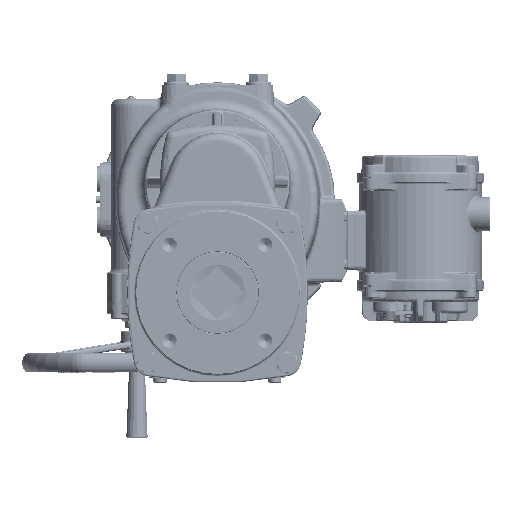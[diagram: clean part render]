
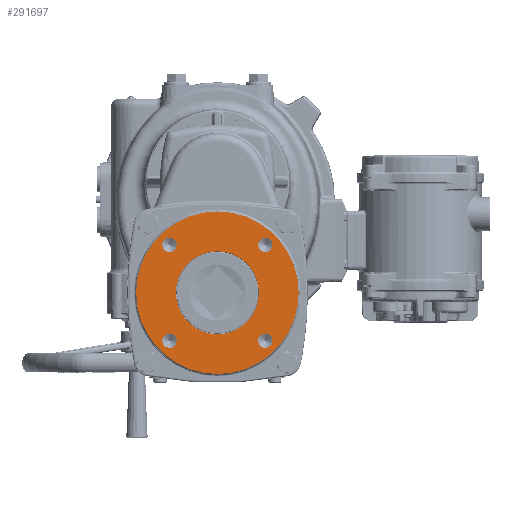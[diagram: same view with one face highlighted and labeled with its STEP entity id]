
A CAD part, front view. The second image highlights one B-rep face of the part: STEP entity #291697.
In plain terms, the highlighted planar face has unit normal (0, -1, 0).
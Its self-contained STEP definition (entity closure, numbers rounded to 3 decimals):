
#1913 = CIRCLE ( 'NONE', #381084, 50.5 ) ;
#2322 = EDGE_CURVE ( 'NONE', #156923, #248317, #85179, .T. ) ;
#3795 = CARTESIAN_POINT ( 'NONE',  ( 50.5, -391., -113.5 ) ) ;
#10185 = CIRCLE ( 'NONE', #279375, 8.75 ) ;
#12258 = EDGE_LOOP ( 'NONE', ( #154487, #174067 ) ) ;
#12925 = DIRECTION ( 'NONE',  ( 0., -1., 0. ) ) ;
#13123 = CARTESIAN_POINT ( 'NONE',  ( -58.336, -391., -55.164 ) ) ;
#13472 = DIRECTION ( 'NONE',  ( 0., -1., 0. ) ) ;
#25100 = EDGE_CURVE ( 'NONE', #236612, #114414, #1913, .T. ) ;
#32908 = EDGE_CURVE ( 'NONE', #321538, #335412, #230259, .T. ) ;
#35435 = CARTESIAN_POINT ( 'NONE',  ( -49.586, -391., -55.164 ) ) ;
#36414 = CIRCLE ( 'NONE', #260318, 50.5 ) ;
#43467 = DIRECTION ( 'NONE',  ( -1., 0., 0. ) ) ;
#45093 = ORIENTED_EDGE ( 'NONE', *, *, #95114, .T. ) ;
#53627 = VERTEX_POINT ( 'NONE', #120132 ) ;
#57685 = CARTESIAN_POINT ( 'NONE',  ( 67.086, -391., -171.836 ) ) ;
#58710 = EDGE_CURVE ( 'NONE', #362829, #213425, #275127, .T. ) ;
#76021 = CARTESIAN_POINT ( 'NONE',  ( 0., -391., -113.5 ) ) ;
#76442 = FACE_BOUND ( 'NONE', #149103, .T. ) ;
#77978 = VERTEX_POINT ( 'NONE', #330647 ) ;
#79696 = CARTESIAN_POINT ( 'NONE',  ( 0., -391., -113.5 ) ) ;
#81681 = CARTESIAN_POINT ( 'NONE',  ( -50.5, -391., -113.5 ) ) ;
#85179 = CIRCLE ( 'NONE', #160551, 99. ) ;
#85431 = ORIENTED_EDGE ( 'NONE', *, *, #376499, .F. ) ;
#86334 = EDGE_LOOP ( 'NONE', ( #253863, #207589 ) ) ;
#88490 = EDGE_CURVE ( 'NONE', #335412, #321538, #305899, .T. ) ;
#91333 = ORIENTED_EDGE ( 'NONE', *, *, #2322, .T. ) ;
#91653 = CARTESIAN_POINT ( 'NONE',  ( -58.336, -391., -171.836 ) ) ;
#94897 = DIRECTION ( 'NONE',  ( 0., 1., 0. ) ) ;
#95114 = EDGE_CURVE ( 'NONE', #248317, #156923, #269764, .T. ) ;
#95658 = AXIS2_PLACEMENT_3D ( 'NONE', #170725, #381068, #200992 ) ;
#96428 = ORIENTED_EDGE ( 'NONE', *, *, #25100, .T. ) ;
#106283 = DIRECTION ( 'NONE',  ( 1., 0., 0. ) ) ;
#107506 = CIRCLE ( 'NONE', #95658, 8.75 ) ;
#107553 = ORIENTED_EDGE ( 'NONE', *, *, #317236, .F. ) ;
#109997 = DIRECTION ( 'NONE',  ( 1., 0., 0. ) ) ;
#114414 = VERTEX_POINT ( 'NONE', #3795 ) ;
#120132 = CARTESIAN_POINT ( 'NONE',  ( -67.086, -391., -171.836 ) ) ;
#120929 = CARTESIAN_POINT ( 'NONE',  ( -49.586, -391., -171.836 ) ) ;
#121829 = DIRECTION ( 'NONE',  ( -1., 0., 0. ) ) ;
#132902 = DIRECTION ( 'NONE',  ( 0., -1., 0. ) ) ;
#133487 = DIRECTION ( 'NONE',  ( 0., -1., 0. ) ) ;
#134957 = CARTESIAN_POINT ( 'NONE',  ( 0., -391., -113.5 ) ) ;
#145509 = DIRECTION ( 'NONE',  ( 0., -1., 0. ) ) ;
#149103 = EDGE_LOOP ( 'NONE', ( #85431, #169443 ) ) ;
#152673 = CIRCLE ( 'NONE', #203650, 8.75 ) ;
#154487 = ORIENTED_EDGE ( 'NONE', *, *, #88490, .F. ) ;
#154593 = CARTESIAN_POINT ( 'NONE',  ( -58.336, -391., -55.164 ) ) ;
#156529 = FACE_BOUND ( 'NONE', #86334, .T. ) ;
#156923 = VERTEX_POINT ( 'NONE', #211791 ) ;
#160551 = AXIS2_PLACEMENT_3D ( 'NONE', #134957, #345490, #165357 ) ;
#163101 = CARTESIAN_POINT ( 'NONE',  ( 67.086, -391., -55.164 ) ) ;
#165357 = DIRECTION ( 'NONE',  ( 1., 0., 0. ) ) ;
#166202 = EDGE_LOOP ( 'NONE', ( #96428, #307472 ) ) ;
#169443 = ORIENTED_EDGE ( 'NONE', *, *, #58710, .F. ) ;
#170725 = CARTESIAN_POINT ( 'NONE',  ( 58.336, -391., -55.164 ) ) ;
#174067 = ORIENTED_EDGE ( 'NONE', *, *, #32908, .F. ) ;
#178479 = ORIENTED_EDGE ( 'NONE', *, *, #371335, .F. ) ;
#184933 = DIRECTION ( 'NONE',  ( -1., 0., 0. ) ) ;
#185315 = AXIS2_PLACEMENT_3D ( 'NONE', #194107, #13472, #224411 ) ;
#193550 = CARTESIAN_POINT ( 'NONE',  ( 0., -391., -113.5 ) ) ;
#194107 = CARTESIAN_POINT ( 'NONE',  ( -58.336, -391., -171.836 ) ) ;
#196053 = AXIS2_PLACEMENT_3D ( 'NONE', #313118, #132902, #343397 ) ;
#200992 = DIRECTION ( 'NONE',  ( -1., 0., 0. ) ) ;
#203650 = AXIS2_PLACEMENT_3D ( 'NONE', #313727, #133487, #343985 ) ;
#207589 = ORIENTED_EDGE ( 'NONE', *, *, #330779, .F. ) ;
#211791 = CARTESIAN_POINT ( 'NONE',  ( -99., -391., -113.5 ) ) ;
#213425 = VERTEX_POINT ( 'NONE', #290124 ) ;
#223838 = DIRECTION ( 'NONE',  ( 1., 0., 0. ) ) ;
#224037 = DIRECTION ( 'NONE',  ( 0., -1., 0. ) ) ;
#224287 = VERTEX_POINT ( 'NONE', #163101 ) ;
#224411 = DIRECTION ( 'NONE',  ( -1., 0., 0. ) ) ;
#230259 = CIRCLE ( 'NONE', #361097, 8.75 ) ;
#236612 = VERTEX_POINT ( 'NONE', #81681 ) ;
#236702 = FACE_BOUND ( 'NONE', #12258, .T. ) ;
#245688 = AXIS2_PLACEMENT_3D ( 'NONE', #275183, #94897, #305333 ) ;
#248317 = VERTEX_POINT ( 'NONE', #257756 ) ;
#253863 = ORIENTED_EDGE ( 'NONE', *, *, #332686, .F. ) ;
#257756 = CARTESIAN_POINT ( 'NONE',  ( 99., -391., -113.5 ) ) ;
#260318 = AXIS2_PLACEMENT_3D ( 'NONE', #79696, #290287, #109997 ) ;
#266625 = EDGE_CURVE ( 'NONE', #114414, #236612, #36414, .T. ) ;
#269764 = CIRCLE ( 'NONE', #364880, 99. ) ;
#274252 = VERTEX_POINT ( 'NONE', #120929 ) ;
#275127 = CIRCLE ( 'NONE', #196053, 8.75 ) ;
#275183 = CARTESIAN_POINT ( 'NONE',  ( 0., -391., -163.5 ) ) ;
#279375 = AXIS2_PLACEMENT_3D ( 'NONE', #91653, #302108, #121829 ) ;
#283500 = CIRCLE ( 'NONE', #389119, 8.75 ) ;
#286562 = DIRECTION ( 'NONE',  ( 0., 1., 0. ) ) ;
#290124 = CARTESIAN_POINT ( 'NONE',  ( 49.586, -391., -171.836 ) ) ;
#290287 = DIRECTION ( 'NONE',  ( 0., 1., 0. ) ) ;
#291697 = ADVANCED_FACE ( 'NONE', ( #316495, #76442, #156529, #236702, #387214, #307086 ), #362055, .F. ) ;
#294271 = CIRCLE ( 'NONE', #185315, 8.75 ) ;
#302108 = DIRECTION ( 'NONE',  ( 0., -1., 0. ) ) ;
#305333 = DIRECTION ( 'NONE',  ( 1., 0., 0. ) ) ;
#305899 = CIRCLE ( 'NONE', #366250, 8.75 ) ;
#307086 = FACE_OUTER_BOUND ( 'NONE', #359657, .T. ) ;
#307472 = ORIENTED_EDGE ( 'NONE', *, *, #266625, .T. ) ;
#313118 = CARTESIAN_POINT ( 'NONE',  ( 58.336, -391., -171.836 ) ) ;
#313727 = CARTESIAN_POINT ( 'NONE',  ( 58.336, -391., -171.836 ) ) ;
#316495 = FACE_BOUND ( 'NONE', #375730, .T. ) ;
#317236 = EDGE_CURVE ( 'NONE', #77978, #224287, #283500, .T. ) ;
#321538 = VERTEX_POINT ( 'NONE', #35435 ) ;
#325662 = CARTESIAN_POINT ( 'NONE',  ( 58.336, -391., -55.164 ) ) ;
#330647 = CARTESIAN_POINT ( 'NONE',  ( 49.586, -391., -55.164 ) ) ;
#330779 = EDGE_CURVE ( 'NONE', #274252, #53627, #294271, .T. ) ;
#332686 = EDGE_CURVE ( 'NONE', #53627, #274252, #10185, .T. ) ;
#335412 = VERTEX_POINT ( 'NONE', #377072 ) ;
#343397 = DIRECTION ( 'NONE',  ( -1., 0., 0. ) ) ;
#343985 = DIRECTION ( 'NONE',  ( -1., 0., 0. ) ) ;
#345490 = DIRECTION ( 'NONE',  ( 0., -1., 0. ) ) ;
#355949 = DIRECTION ( 'NONE',  ( -1., 0., 0. ) ) ;
#359657 = EDGE_LOOP ( 'NONE', ( #45093, #91333 ) ) ;
#361097 = AXIS2_PLACEMENT_3D ( 'NONE', #154593, #365077, #184933 ) ;
#362055 = PLANE ( 'NONE',  #245688 ) ;
#362829 = VERTEX_POINT ( 'NONE', #57685 ) ;
#364880 = AXIS2_PLACEMENT_3D ( 'NONE', #193550, #12925, #223838 ) ;
#365077 = DIRECTION ( 'NONE',  ( 0., -1., 0. ) ) ;
#366250 = AXIS2_PLACEMENT_3D ( 'NONE', #13123, #224037, #43467 ) ;
#371335 = EDGE_CURVE ( 'NONE', #224287, #77978, #107506, .T. ) ;
#375730 = EDGE_LOOP ( 'NONE', ( #107553, #178479 ) ) ;
#376499 = EDGE_CURVE ( 'NONE', #213425, #362829, #152673, .T. ) ;
#377072 = CARTESIAN_POINT ( 'NONE',  ( -67.086, -391., -55.164 ) ) ;
#381068 = DIRECTION ( 'NONE',  ( 0., -1., 0. ) ) ;
#381084 = AXIS2_PLACEMENT_3D ( 'NONE', #76021, #286562, #106283 ) ;
#387214 = FACE_BOUND ( 'NONE', #166202, .T. ) ;
#389119 = AXIS2_PLACEMENT_3D ( 'NONE', #325662, #145509, #355949 ) ;
